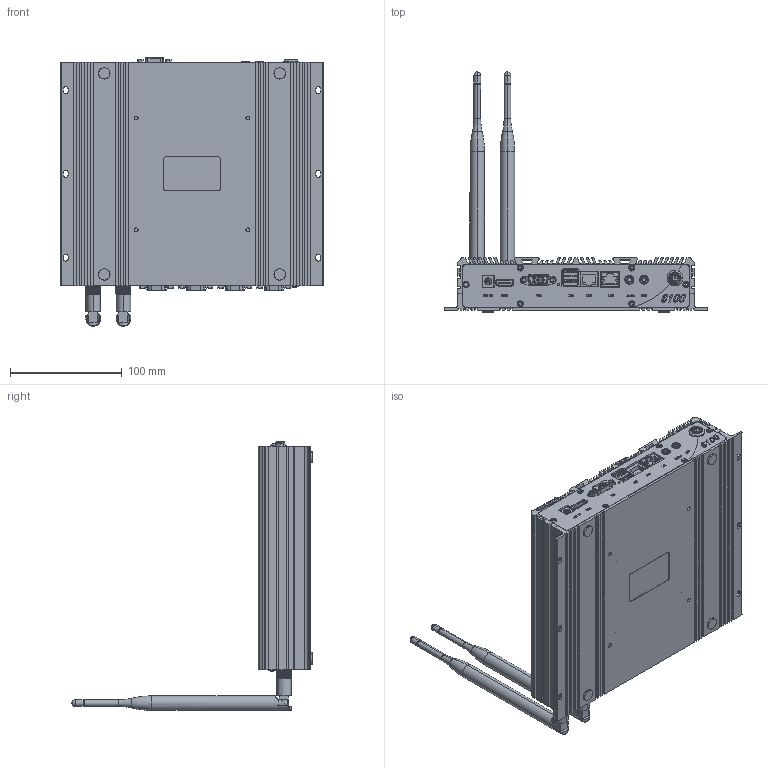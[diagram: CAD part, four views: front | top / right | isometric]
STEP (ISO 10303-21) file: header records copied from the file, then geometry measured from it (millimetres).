
FILE_DESCRIPTION (( 'STEP AP203' ), '1' );
FILE_NAME ('IPC_S100_通用3D（2026.01.13）.STEP', '2026-01-13T08:27:56', ( 'h''w''s''j''s' ), ( '' ), 'SwSTEP 2.0', 'SolidWorks 2020', '' );
FILE_SCHEMA (( 'CONFIG_CONTROL_DESIGN' ));
Length unit declared in the file: millimetre
Products named in the file (1): IPC_S100_通用3D（2026.01.13）
Bounding box: 235 x 215.1 x 240.57 mm (x, y, z)
Volume: 1881476.4 mm3; surface area: 272508 mm2
Topology: 1 solids, 12 shells, 3204 faces, 9039 edges, 5945 vertices
Faces by surface type: plane 1634, cylinder 1188, sphere 128, bspline 119, cone 107, torus 28
Entity records: 114960 total; most frequent: CARTESIAN_POINT 31297, ORIENTED_EDGE 17742, DIRECTION 17314, EDGE_CURVE 8871, VERTEX_POINT 5917, AXIS2_PLACEMENT_3D 5809, VECTOR 5696, LINE 5696
